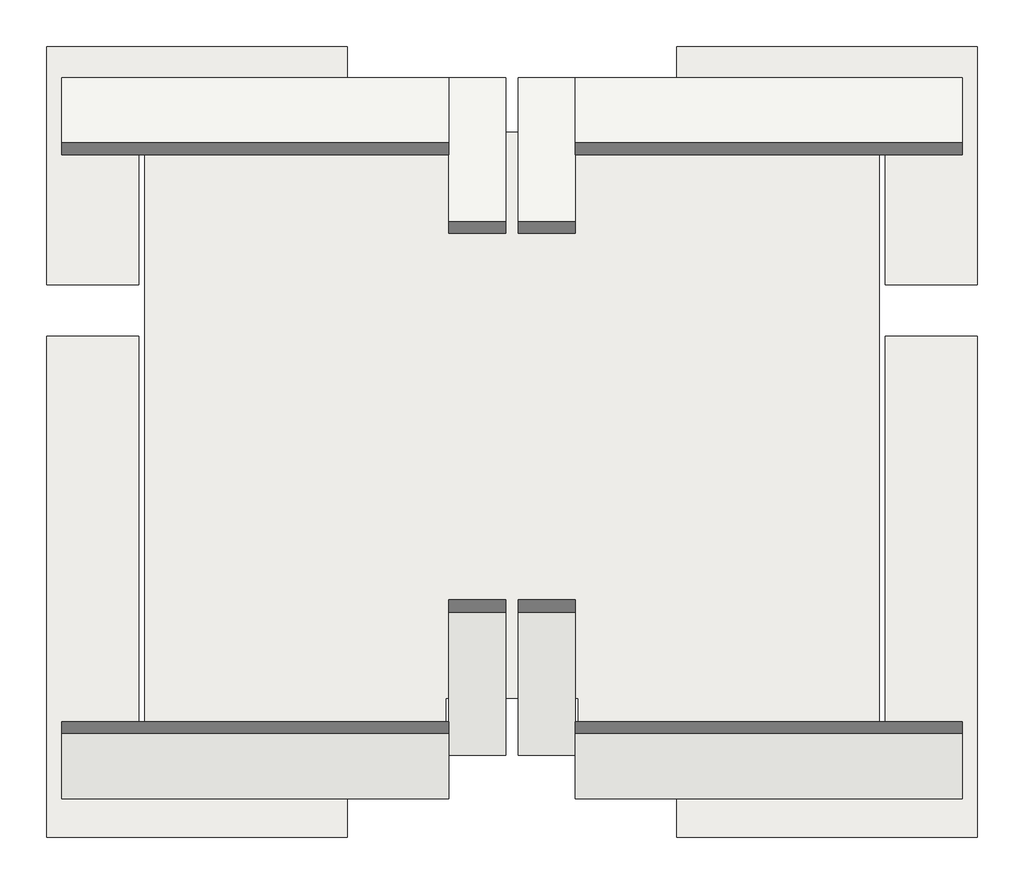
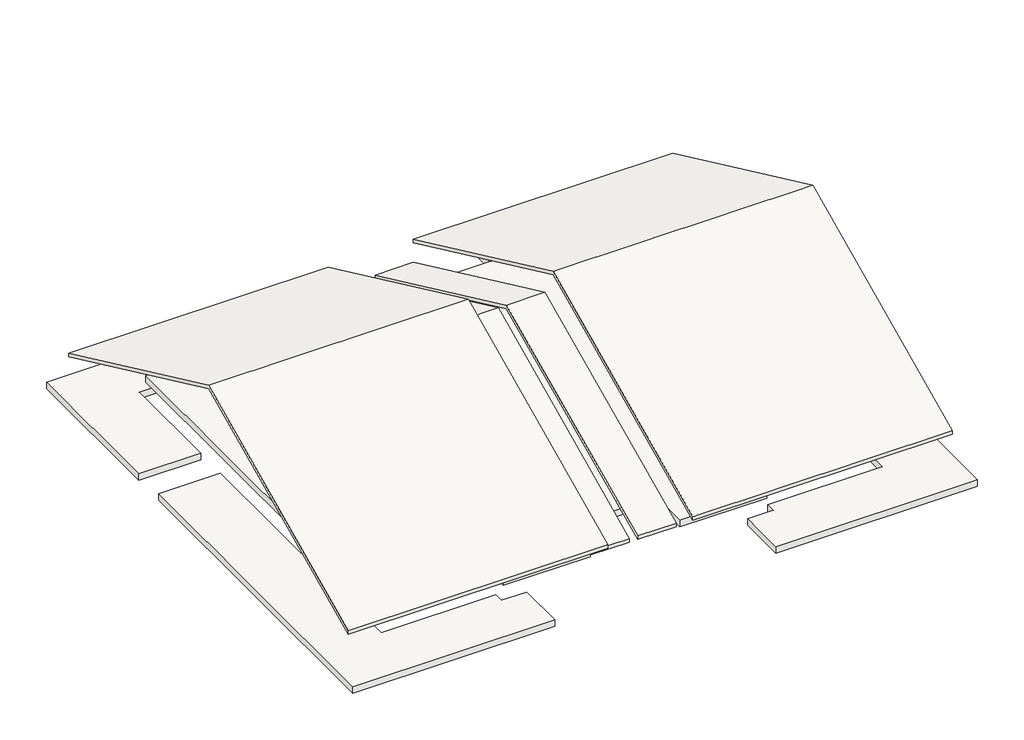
# One storey: 9 roofs.
"""IFC4 building model written with IfcOpenShell, lengths in millimetres."""

from ifc_helpers import new_model, si_unit, frame, origin, place, context, project, spatial, polyline, outline, extrude, element, save

model = new_model("IFC4")

# Units and contexts
model_context = context("Model", 3, world=origin())
ifc_project = project(units=[si_unit("LENGTHUNIT", "METRE", prefix="MILLI")], contexts=[model_context])

# Site, building, storey
site = spatial("IfcSite", under=ifc_project)
building = spatial("IfcBuilding", under=site)
storey = spatial("IfcBuildingStorey", under=building, Name="标高 3", Elevation=7650.0)

# Roofs
placement = place(None, origin())
element("IfcRoof", 1, ObjectType="坡屋顶100", at=placement, inside=storey, context=model_context, shape_type="SweptSolid", body=[
    extrude(outline(polyline([(-2178.5593818, 8256.53101), (4871.4406182, 11544.0), (11921.4406182, 8256.53101), (11921.4406182, 8146.1932181), (4871.4406182, 11433.6622081), (-2178.5593818, 8146.1932181), (-2178.5593818, 8256.53101)])), frame((-7945.3991115, 0.0, 0.0), z_axis=(1.0, 0.0, 0.0), x_axis=(0.0, 1.0, 0.0)), (0.0, 0.0, 1.0), 7560.0),
])
element("IfcRoof", 2, ObjectType="坡屋顶100", at=placement, inside=storey, context=model_context, shape_type="SweptSolid", body=[
    extrude(outline(polyline([(-1328.5593818, 7542.7117647), (5296.4406182, 10632.0), (11921.4406182, 7542.7117647), (11921.4406182, 7432.3739728), (5296.4406182, 10521.6622081), (-1328.5593818, 7432.3739728), (-1328.5593818, 7542.7117647)])), frame((-385.3991115, 0.0, 0.0), z_axis=(1.0, 0.0, 0.0), x_axis=(0.0, 1.0, 0.0)), (0.0, 0.0, 1.0), 1120.0),
])
element("IfcRoof", 3, ObjectType="平屋顶200", at=placement, inside=storey, context=model_context, shape_type="SweptSolid", body=[
    extrude(outline(polyline([(-2365.3991115, -2928.5593818), (-8245.3991115, -2928.5593818), (-8245.3991115, 6871.4406182), (-6445.3991115, 6871.4406182), (-6445.3991115, -1238.5593818), (-3105.3991115, -1238.5593818), (-3105.3991115, -1523.5593818), (-2365.3991115, -1523.5593818), (-2365.3991115, -2928.5593818)])), frame((0.0, 0.0, 6900.0), z_axis=(0.0, 0.0, 1.0), x_axis=(1.0, 0.0, 0.0)), (0.0, 0.0, 1.0), 200.0),
])
element("IfcRoof", 4, ObjectType="平屋顶200", at=placement, inside=storey, context=model_context, shape_type="SweptSolid", body=[
    extrude(outline(polyline([(-6445.3991115, 10971.4406182), (-6445.3991115, 7871.4406182), (-8245.3991115, 7871.4406182), (-8245.3991115, 12531.4406182), (-2365.3991115, 12531.4406182), (-2365.3991115, 10971.4406182), (-6445.3991115, 10971.4406182)])), frame((0.0, 0.0, 6900.0), z_axis=(0.0, 0.0, 1.0), x_axis=(1.0, 0.0, 0.0)), (0.0, 0.0, 1.0), 200.0),
])
element("IfcRoof", 5, ObjectType="坡屋顶100", at=placement, inside=storey, context=model_context, shape_type="SweptSolid", body=[
    extrude(outline(polyline([(-2178.5593818, 8256.53101), (4871.4406182, 11544.0), (11921.4406182, 8256.53101), (11921.4406182, 8146.1932181), (4871.4406182, 11433.6622081), (-2178.5593818, 8146.1932181), (-2178.5593818, 8256.53101)])), frame((2094.6008885, 0.0, 0.0), z_axis=(1.0, 0.0, 0.0), x_axis=(0.0, 1.0, 0.0)), (0.0, 0.0, 1.0), 7560.0),
])
element("IfcRoof", 6, ObjectType="坡屋顶100", at=placement, inside=storey, context=model_context, shape_type="SweptSolid", body=[
    extrude(outline(polyline([(-1328.5593818, 7542.7117647), (5296.4406182, 10632.0), (11921.4406182, 7542.7117647), (11921.4406182, 7432.3739728), (5296.4406182, 10521.6622081), (-1328.5593818, 7432.3739728), (-1328.5593818, 7542.7117647)])), frame((974.6008885, 0.0, 0.0), z_axis=(1.0, 0.0, 0.0), x_axis=(0.0, 1.0, 0.0)), (0.0, 0.0, 1.0), 1120.0),
])
element("IfcRoof", 7, ObjectType="平屋顶200", at=placement, inside=storey, context=model_context, shape_type="SweptSolid", body=[
    extrude(outline(polyline([(9954.6008885, -2928.5593818), (4074.6008885, -2928.5593818), (4074.6008885, -1523.5593818), (4814.6008885, -1523.5593818), (4814.6008885, -1238.5593818), (8154.6008885, -1238.5593818), (8154.6008885, 6871.4406182), (9954.6008885, 6871.4406182), (9954.6008885, -2928.5593818)])), frame((0.0, 0.0, 6900.0), z_axis=(0.0, 0.0, 1.0), x_axis=(1.0, 0.0, 0.0)), (0.0, 0.0, 1.0), 200.0),
])
element("IfcRoof", 8, ObjectType="平屋顶200", at=placement, inside=storey, context=model_context, shape_type="SweptSolid", body=[
    extrude(outline(polyline([(8154.6008885, 7871.4406182), (8154.6008885, 10971.4406182), (4074.6008885, 10971.4406182), (4074.6008885, 12531.4406182), (9954.6008885, 12531.4406182), (9954.6008885, 7871.4406182), (8154.6008885, 7871.4406182)])), frame((0.0, 0.0, 6900.0), z_axis=(0.0, 0.0, 1.0), x_axis=(1.0, 0.0, 0.0)), (0.0, 0.0, 1.0), 200.0),
])
element("IfcRoof", 9, ObjectType="平屋顶200", at=placement, inside=storey, context=model_context, shape_type="SweptSolid", body=[
    extrude(outline(polyline([(-6325.3991115, 10851.4406182), (8034.6008885, 10851.4406182), (8034.6008885, -1118.5593818), (4694.6008885, -1118.5593818), (4694.6008885, -1403.5593818), (2154.6008885, -1403.5593818), (2154.6008885, -208.5593818), (854.6008885, -208.5593818), (-445.3991115, -208.5593818), (-445.3991115, -1403.5593818), (-2985.3991115, -1403.5593818), (-2985.3991115, -1118.5593818), (-6325.3991115, -1118.5593818), (-6325.3991115, 10851.4406182)])), frame((0.0, 0.0, 7450.0), z_axis=(0.0, 0.0, 1.0), x_axis=(1.0, 0.0, 0.0)), (0.0, 0.0, 1.0), 200.0),
])

save(model, "model.ifc")
